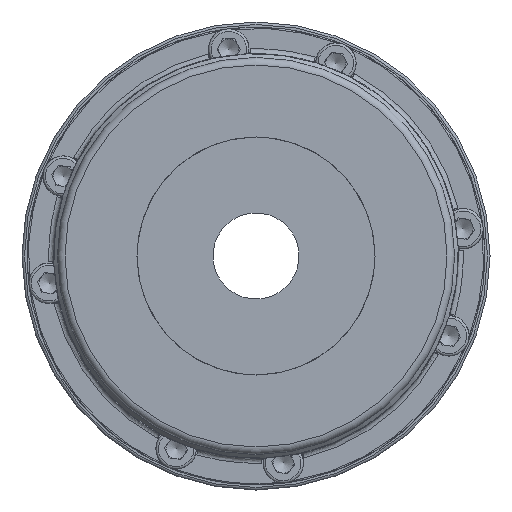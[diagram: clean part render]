
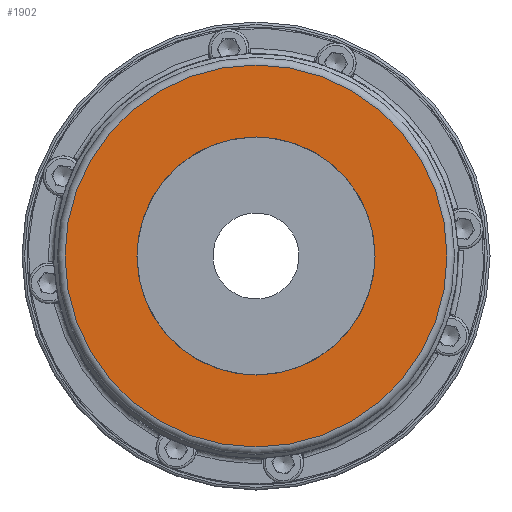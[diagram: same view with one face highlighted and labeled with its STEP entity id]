
A CAD part, left-side view. The second image highlights one B-rep face of the part: STEP entity #1902.
In plain terms, the highlighted planar face has unit normal (-1, 0, 0).
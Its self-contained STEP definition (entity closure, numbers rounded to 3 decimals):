
#1902 = ADVANCED_FACE( '', ( #4653, #4654 ), #4655, .T. );
#4653 = FACE_OUTER_BOUND( '', #8404, .T. );
#4654 = FACE_BOUND( '', #8405, .T. );
#4655 = PLANE( '', #8406 );
#8404 = EDGE_LOOP( '', ( #14299 ) );
#8405 = EDGE_LOOP( '', ( #14300 ) );
#8406 = AXIS2_PLACEMENT_3D( '', #14301, #14302, #14303 );
#14299 = ORIENTED_EDGE( '', *, *, #21448, .T. );
#14300 = ORIENTED_EDGE( '', *, *, #21629, .F. );
#14301 = CARTESIAN_POINT( '', ( -118.879, 40.759, 23.532 ) );
#14302 = DIRECTION( '', ( -1., 0., 0. ) );
#14303 = DIRECTION( '', ( 0., 1., 0. ) );
#21448 = EDGE_CURVE( '', #25890, #25890, #25891, .T. );
#21629 = EDGE_CURVE( '', #26142, #26142, #26143, .T. );
#25890 = VERTEX_POINT( '', #34558 );
#25891 = CIRCLE( '', #34559, 75.5 );
#26142 = VERTEX_POINT( '', #35202 );
#26143 = CIRCLE( '', #35203, 47.064 );
#34558 = CARTESIAN_POINT( '', ( -118.879, 65.385, 37.75 ) );
#34559 = AXIS2_PLACEMENT_3D( '', #42044, #42045, #42046 );
#35202 = CARTESIAN_POINT( '', ( -118.879, 40.759, 23.532 ) );
#35203 = AXIS2_PLACEMENT_3D( '', #42245, #42246, #42247 );
#42044 = CARTESIAN_POINT( '', ( -118.879, 0., 0. ) );
#42045 = DIRECTION( '', ( -1., 0., 0. ) );
#42046 = DIRECTION( '', ( 0., 0.866, 0.5 ) );
#42245 = CARTESIAN_POINT( '', ( -118.879, 0., 0. ) );
#42246 = DIRECTION( '', ( -1., 0., 0. ) );
#42247 = DIRECTION( '', ( 0., 0.866, 0.5 ) );
